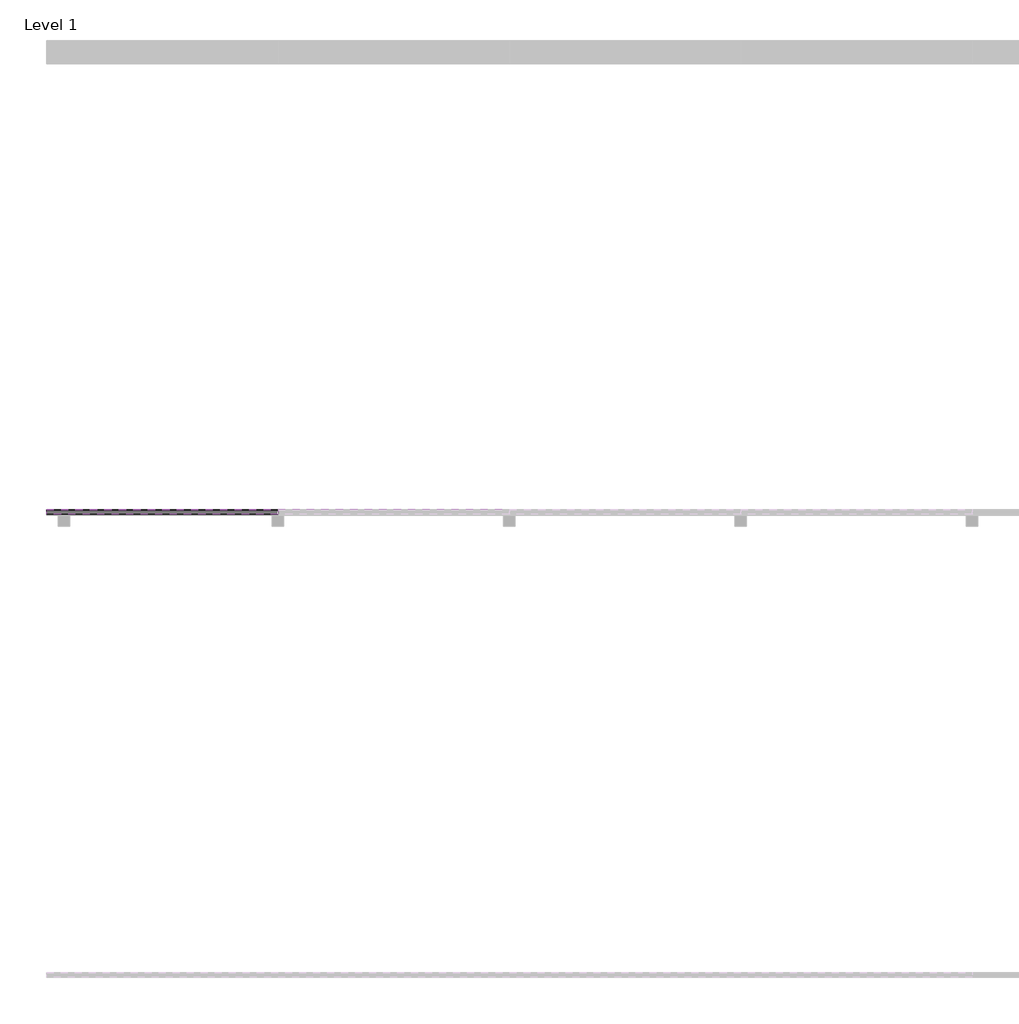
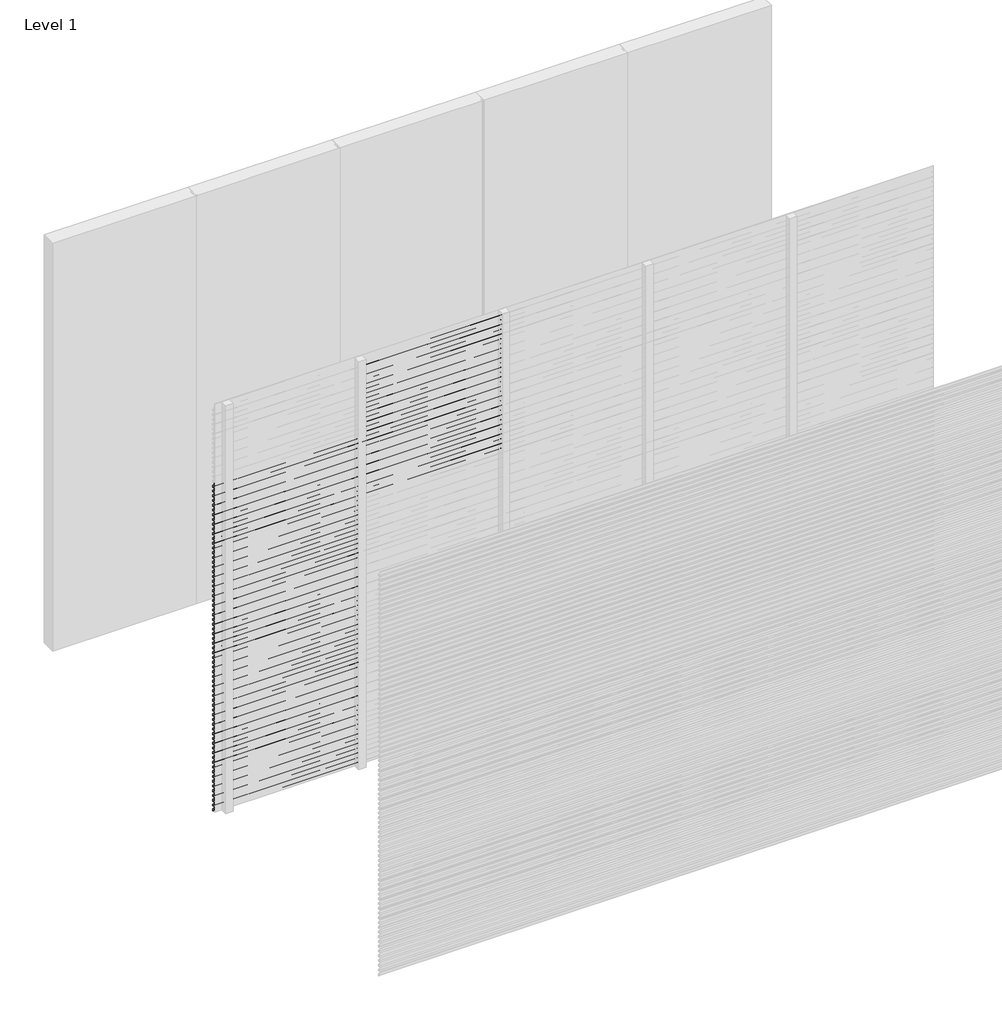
# One storey, part 9 of 25: 98 proxies.
"""IFC4 building model written with IfcOpenShell, lengths in millimetres."""

from ifc_helpers import new_model, si_unit, frame, origin, place, context, project, spatial, polyline, outline, extrude, element, save

model = new_model("IFC4")

# Units and contexts
model_context = context("Model", 3, world=origin())
ifc_project = project(units=[si_unit("LENGTHUNIT", "METRE", prefix="MILLI")], contexts=[model_context])

# Site, building, storey
site = spatial("IfcSite", under=ifc_project)
building = spatial("IfcBuilding", under=site)
storey = spatial("IfcBuildingStorey", under=building, Name="Level 1", Elevation=0.0)

# Proxies
placement = place(None, origin())
element("IfcBuildingElementProxy", 1, Name="Wall Sweeps", at=placement, inside=storey, context=model_context, shape_type="SweptSolid", body=[
    extrude(outline(polyline([(-11995.0, 2415.0), (-11995.0, 2403.942893), (-11976.0, 2388.0), (-11976.0, 2375.0), (-11997.0, 2392.6210923), (-11997.0, 2415.0), (-11995.0, 2415.0)])), frame((0.0, 0.0, 0.0), z_axis=(1.0, 0.0, 0.0), x_axis=(0.0, 1.0, 0.0)), (0.0, 0.0, 1.0), 1000.0),
])
element("IfcBuildingElementProxy", 2, Name="Wall Sweeps", at=placement, inside=storey, context=model_context, shape_type="SweptSolid", body=[
    extrude(outline(polyline([(-11995.0, 2380.0), (-11995.0, 2368.942893), (-11976.0, 2353.0), (-11976.0, 2340.0), (-11997.0, 2357.6210923), (-11997.0, 2380.0), (-11995.0, 2380.0)])), frame((0.0, 0.0, 0.0), z_axis=(1.0, 0.0, 0.0), x_axis=(0.0, 1.0, 0.0)), (0.0, 0.0, 1.0), 1000.0),
])
element("IfcBuildingElementProxy", 3, Name="Wall Sweeps", at=placement, inside=storey, context=model_context, shape_type="SweptSolid", body=[
    extrude(outline(polyline([(-11995.0, 2345.0), (-11995.0, 2333.942893), (-11976.0, 2318.0), (-11976.0, 2305.0), (-11997.0, 2322.6210923), (-11997.0, 2345.0), (-11995.0, 2345.0)])), frame((0.0, 0.0, 0.0), z_axis=(1.0, 0.0, 0.0), x_axis=(0.0, 1.0, 0.0)), (0.0, 0.0, 1.0), 1000.0),
])
element("IfcBuildingElementProxy", 4, Name="Wall Sweeps", at=placement, inside=storey, context=model_context, shape_type="SweptSolid", body=[
    extrude(outline(polyline([(-11995.0, 2310.0), (-11995.0, 2298.942893), (-11976.0, 2283.0), (-11976.0, 2270.0), (-11997.0, 2287.6210923), (-11997.0, 2310.0), (-11995.0, 2310.0)])), frame((0.0, 0.0, 0.0), z_axis=(1.0, 0.0, 0.0), x_axis=(0.0, 1.0, 0.0)), (0.0, 0.0, 1.0), 1000.0),
])
element("IfcBuildingElementProxy", 5, Name="Wall Sweeps", at=placement, inside=storey, context=model_context, shape_type="SweptSolid", body=[
    extrude(outline(polyline([(-11995.0, 2275.0), (-11995.0, 2263.942893), (-11976.0, 2248.0), (-11976.0, 2235.0), (-11997.0, 2252.6210923), (-11997.0, 2275.0), (-11995.0, 2275.0)])), frame((0.0, 0.0, 0.0), z_axis=(1.0, 0.0, 0.0), x_axis=(0.0, 1.0, 0.0)), (0.0, 0.0, 1.0), 1000.0),
])
element("IfcBuildingElementProxy", 6, Name="Wall Sweeps", at=placement, inside=storey, context=model_context, shape_type="SweptSolid", body=[
    extrude(outline(polyline([(-11995.0, 2240.0), (-11995.0, 2228.942893), (-11976.0, 2213.0), (-11976.0, 2200.0), (-11997.0, 2217.6210923), (-11997.0, 2240.0), (-11995.0, 2240.0)])), frame((0.0, 0.0, 0.0), z_axis=(1.0, 0.0, 0.0), x_axis=(0.0, 1.0, 0.0)), (0.0, 0.0, 1.0), 1000.0),
])
element("IfcBuildingElementProxy", 7, Name="Wall Sweeps", at=placement, inside=storey, context=model_context, shape_type="SweptSolid", body=[
    extrude(outline(polyline([(-11995.0, 2205.0), (-11995.0, 2193.942893), (-11976.0, 2178.0), (-11976.0, 2165.0), (-11997.0, 2182.6210923), (-11997.0, 2205.0), (-11995.0, 2205.0)])), frame((0.0, 0.0, 0.0), z_axis=(1.0, 0.0, 0.0), x_axis=(0.0, 1.0, 0.0)), (0.0, 0.0, 1.0), 1000.0),
])
element("IfcBuildingElementProxy", 8, Name="Wall Sweeps", at=placement, inside=storey, context=model_context, shape_type="SweptSolid", body=[
    extrude(outline(polyline([(-11995.0, 2170.0), (-11995.0, 2158.942893), (-11976.0, 2143.0), (-11976.0, 2130.0), (-11997.0, 2147.6210923), (-11997.0, 2170.0), (-11995.0, 2170.0)])), frame((0.0, 0.0, 0.0), z_axis=(1.0, 0.0, 0.0), x_axis=(0.0, 1.0, 0.0)), (0.0, 0.0, 1.0), 1000.0),
])
element("IfcBuildingElementProxy", 9, Name="Wall Sweeps", at=placement, inside=storey, context=model_context, shape_type="SweptSolid", body=[
    extrude(outline(polyline([(-11995.0, 2135.0), (-11995.0, 2123.942893), (-11976.0, 2108.0), (-11976.0, 2095.0), (-11997.0, 2112.6210923), (-11997.0, 2135.0), (-11995.0, 2135.0)])), frame((0.0, 0.0, 0.0), z_axis=(1.0, 0.0, 0.0), x_axis=(0.0, 1.0, 0.0)), (0.0, 0.0, 1.0), 1000.0),
])
element("IfcBuildingElementProxy", 10, Name="Wall Sweeps", at=placement, inside=storey, context=model_context, shape_type="SweptSolid", body=[
    extrude(outline(polyline([(-11995.0, 2100.0), (-11995.0, 2088.942893), (-11976.0, 2073.0), (-11976.0, 2060.0), (-11997.0, 2077.6210923), (-11997.0, 2100.0), (-11995.0, 2100.0)])), frame((0.0, 0.0, 0.0), z_axis=(1.0, 0.0, 0.0), x_axis=(0.0, 1.0, 0.0)), (0.0, 0.0, 1.0), 1000.0),
])
element("IfcBuildingElementProxy", 11, Name="Wall Sweeps", at=placement, inside=storey, context=model_context, shape_type="SweptSolid", body=[
    extrude(outline(polyline([(-11995.0, 2065.0), (-11995.0, 2053.942893), (-11976.0, 2038.0), (-11976.0, 2025.0), (-11997.0, 2042.6210923), (-11997.0, 2065.0), (-11995.0, 2065.0)])), frame((0.0, 0.0, 0.0), z_axis=(1.0, 0.0, 0.0), x_axis=(0.0, 1.0, 0.0)), (0.0, 0.0, 1.0), 1000.0),
])
element("IfcBuildingElementProxy", 12, Name="Wall Sweeps", at=placement, inside=storey, context=model_context, shape_type="SweptSolid", body=[
    extrude(outline(polyline([(-11995.0, 2030.0), (-11995.0, 2018.942893), (-11976.0, 2003.0), (-11976.0, 1990.0), (-11997.0, 2007.6210923), (-11997.0, 2030.0), (-11995.0, 2030.0)])), frame((0.0, 0.0, 0.0), z_axis=(1.0, 0.0, 0.0), x_axis=(0.0, 1.0, 0.0)), (0.0, 0.0, 1.0), 1000.0),
])
element("IfcBuildingElementProxy", 13, Name="Wall Sweeps", at=placement, inside=storey, context=model_context, shape_type="SweptSolid", body=[
    extrude(outline(polyline([(-11995.0, 1995.0), (-11995.0, 1983.942893), (-11976.0, 1968.0), (-11976.0, 1955.0), (-11997.0, 1972.6210923), (-11997.0, 1995.0), (-11995.0, 1995.0)])), frame((0.0, 0.0, 0.0), z_axis=(1.0, 0.0, 0.0), x_axis=(0.0, 1.0, 0.0)), (0.0, 0.0, 1.0), 1000.0),
])
element("IfcBuildingElementProxy", 14, Name="Wall Sweeps", at=placement, inside=storey, context=model_context, shape_type="SweptSolid", body=[
    extrude(outline(polyline([(-11995.0, 1960.0), (-11995.0, 1948.942893), (-11976.0, 1933.0), (-11976.0, 1920.0), (-11997.0, 1937.6210923), (-11997.0, 1960.0), (-11995.0, 1960.0)])), frame((0.0, 0.0, 0.0), z_axis=(1.0, 0.0, 0.0), x_axis=(0.0, 1.0, 0.0)), (0.0, 0.0, 1.0), 1000.0),
])
element("IfcBuildingElementProxy", 15, Name="Wall Sweeps", at=placement, inside=storey, context=model_context, shape_type="SweptSolid", body=[
    extrude(outline(polyline([(-11995.0, 1925.0), (-11995.0, 1913.942893), (-11976.0, 1898.0), (-11976.0, 1885.0), (-11997.0, 1902.6210923), (-11997.0, 1925.0), (-11995.0, 1925.0)])), frame((0.0, 0.0, 0.0), z_axis=(1.0, 0.0, 0.0), x_axis=(0.0, 1.0, 0.0)), (0.0, 0.0, 1.0), 1000.0),
])
element("IfcBuildingElementProxy", 16, Name="Wall Sweeps", at=placement, inside=storey, context=model_context, shape_type="SweptSolid", body=[
    extrude(outline(polyline([(-11995.0, 1890.0), (-11995.0, 1878.942893), (-11976.0, 1863.0), (-11976.0, 1850.0), (-11997.0, 1867.6210923), (-11997.0, 1890.0), (-11995.0, 1890.0)])), frame((0.0, 0.0, 0.0), z_axis=(1.0, 0.0, 0.0), x_axis=(0.0, 1.0, 0.0)), (0.0, 0.0, 1.0), 1000.0),
])
element("IfcBuildingElementProxy", 17, Name="Wall Sweeps", at=placement, inside=storey, context=model_context, shape_type="SweptSolid", body=[
    extrude(outline(polyline([(-11995.0, 1855.0), (-11995.0, 1843.942893), (-11976.0, 1828.0), (-11976.0, 1815.0), (-11997.0, 1832.6210923), (-11997.0, 1855.0), (-11995.0, 1855.0)])), frame((0.0, 0.0, 0.0), z_axis=(1.0, 0.0, 0.0), x_axis=(0.0, 1.0, 0.0)), (0.0, 0.0, 1.0), 1000.0),
])
element("IfcBuildingElementProxy", 18, Name="Wall Sweeps", at=placement, inside=storey, context=model_context, shape_type="SweptSolid", body=[
    extrude(outline(polyline([(-11995.0, 1820.0), (-11995.0, 1808.942893), (-11976.0, 1793.0), (-11976.0, 1780.0), (-11997.0, 1797.6210923), (-11997.0, 1820.0), (-11995.0, 1820.0)])), frame((0.0, 0.0, 0.0), z_axis=(1.0, 0.0, 0.0), x_axis=(0.0, 1.0, 0.0)), (0.0, 0.0, 1.0), 1000.0),
])
element("IfcBuildingElementProxy", 19, Name="Wall Sweeps", at=placement, inside=storey, context=model_context, shape_type="SweptSolid", body=[
    extrude(outline(polyline([(-11995.0, 1785.0), (-11995.0, 1773.942893), (-11976.0, 1758.0), (-11976.0, 1745.0), (-11997.0, 1762.6210923), (-11997.0, 1785.0), (-11995.0, 1785.0)])), frame((0.0, 0.0, 0.0), z_axis=(1.0, 0.0, 0.0), x_axis=(0.0, 1.0, 0.0)), (0.0, 0.0, 1.0), 1000.0),
])
element("IfcBuildingElementProxy", 20, Name="Wall Sweeps", at=placement, inside=storey, context=model_context, shape_type="SweptSolid", body=[
    extrude(outline(polyline([(-11995.0, 1750.0), (-11995.0, 1738.942893), (-11976.0, 1723.0), (-11976.0, 1710.0), (-11997.0, 1727.6210923), (-11997.0, 1750.0), (-11995.0, 1750.0)])), frame((0.0, 0.0, 0.0), z_axis=(1.0, 0.0, 0.0), x_axis=(0.0, 1.0, 0.0)), (0.0, 0.0, 1.0), 1000.0),
])
element("IfcBuildingElementProxy", 21, Name="Wall Sweeps", at=placement, inside=storey, context=model_context, shape_type="SweptSolid", body=[
    extrude(outline(polyline([(-11995.0, 1715.0), (-11995.0, 1703.942893), (-11976.0, 1688.0), (-11976.0, 1675.0), (-11997.0, 1692.6210923), (-11997.0, 1715.0), (-11995.0, 1715.0)])), frame((0.0, 0.0, 0.0), z_axis=(1.0, 0.0, 0.0), x_axis=(0.0, 1.0, 0.0)), (0.0, 0.0, 1.0), 1000.0),
])
element("IfcBuildingElementProxy", 22, Name="Wall Sweeps", at=placement, inside=storey, context=model_context, shape_type="SweptSolid", body=[
    extrude(outline(polyline([(-11995.0, 1680.0), (-11995.0, 1668.942893), (-11976.0, 1653.0), (-11976.0, 1640.0), (-11997.0, 1657.6210923), (-11997.0, 1680.0), (-11995.0, 1680.0)])), frame((0.0, 0.0, 0.0), z_axis=(1.0, 0.0, 0.0), x_axis=(0.0, 1.0, 0.0)), (0.0, 0.0, 1.0), 1000.0),
])
element("IfcBuildingElementProxy", 23, Name="Wall Sweeps", at=placement, inside=storey, context=model_context, shape_type="SweptSolid", body=[
    extrude(outline(polyline([(-11995.0, 1645.0), (-11995.0, 1633.942893), (-11976.0, 1618.0), (-11976.0, 1605.0), (-11997.0, 1622.6210923), (-11997.0, 1645.0), (-11995.0, 1645.0)])), frame((0.0, 0.0, 0.0), z_axis=(1.0, 0.0, 0.0), x_axis=(0.0, 1.0, 0.0)), (0.0, 0.0, 1.0), 1000.0),
])
element("IfcBuildingElementProxy", 24, Name="Wall Sweeps", at=placement, inside=storey, context=model_context, shape_type="SweptSolid", body=[
    extrude(outline(polyline([(-11995.0, 1610.0), (-11995.0, 1598.942893), (-11976.0, 1583.0), (-11976.0, 1570.0), (-11997.0, 1587.6210923), (-11997.0, 1610.0), (-11995.0, 1610.0)])), frame((0.0, 0.0, 0.0), z_axis=(1.0, 0.0, 0.0), x_axis=(0.0, 1.0, 0.0)), (0.0, 0.0, 1.0), 1000.0),
])
element("IfcBuildingElementProxy", 25, Name="Wall Sweeps", at=placement, inside=storey, context=model_context, shape_type="SweptSolid", body=[
    extrude(outline(polyline([(-11995.0, 1575.0), (-11995.0, 1563.942893), (-11976.0, 1548.0), (-11976.0, 1535.0), (-11997.0, 1552.6210923), (-11997.0, 1575.0), (-11995.0, 1575.0)])), frame((0.0, 0.0, 0.0), z_axis=(1.0, 0.0, 0.0), x_axis=(0.0, 1.0, 0.0)), (0.0, 0.0, 1.0), 1000.0),
])
element("IfcBuildingElementProxy", 26, Name="Wall Sweeps", at=placement, inside=storey, context=model_context, shape_type="SweptSolid", body=[
    extrude(outline(polyline([(-11995.0, 1540.0), (-11995.0, 1528.942893), (-11976.0, 1513.0), (-11976.0, 1500.0), (-11997.0, 1517.6210923), (-11997.0, 1540.0), (-11995.0, 1540.0)])), frame((0.0, 0.0, 0.0), z_axis=(1.0, 0.0, 0.0), x_axis=(0.0, 1.0, 0.0)), (0.0, 0.0, 1.0), 1000.0),
])
element("IfcBuildingElementProxy", 27, Name="Wall Sweeps", at=placement, inside=storey, context=model_context, shape_type="SweptSolid", body=[
    extrude(outline(polyline([(-11995.0, 1505.0), (-11995.0, 1493.942893), (-11976.0, 1478.0), (-11976.0, 1465.0), (-11997.0, 1482.6210923), (-11997.0, 1505.0), (-11995.0, 1505.0)])), frame((0.0, 0.0, 0.0), z_axis=(1.0, 0.0, 0.0), x_axis=(0.0, 1.0, 0.0)), (0.0, 0.0, 1.0), 1000.0),
])
element("IfcBuildingElementProxy", 28, Name="Wall Sweeps", at=placement, inside=storey, context=model_context, shape_type="SweptSolid", body=[
    extrude(outline(polyline([(-11995.0, 1470.0), (-11995.0, 1458.942893), (-11976.0, 1443.0), (-11976.0, 1430.0), (-11997.0, 1447.6210923), (-11997.0, 1470.0), (-11995.0, 1470.0)])), frame((0.0, 0.0, 0.0), z_axis=(1.0, 0.0, 0.0), x_axis=(0.0, 1.0, 0.0)), (0.0, 0.0, 1.0), 1000.0),
])
element("IfcBuildingElementProxy", 29, Name="Wall Sweeps", at=placement, inside=storey, context=model_context, shape_type="SweptSolid", body=[
    extrude(outline(polyline([(-11995.0, 1435.0), (-11995.0, 1423.942893), (-11976.0, 1408.0), (-11976.0, 1395.0), (-11997.0, 1412.6210923), (-11997.0, 1435.0), (-11995.0, 1435.0)])), frame((0.0, 0.0, 0.0), z_axis=(1.0, 0.0, 0.0), x_axis=(0.0, 1.0, 0.0)), (0.0, 0.0, 1.0), 1000.0),
])
element("IfcBuildingElementProxy", 30, Name="Wall Sweeps", at=placement, inside=storey, context=model_context, shape_type="SweptSolid", body=[
    extrude(outline(polyline([(-11995.0, 1400.0), (-11995.0, 1388.942893), (-11976.0, 1373.0), (-11976.0, 1360.0), (-11997.0, 1377.6210923), (-11997.0, 1400.0), (-11995.0, 1400.0)])), frame((0.0, 0.0, 0.0), z_axis=(1.0, 0.0, 0.0), x_axis=(0.0, 1.0, 0.0)), (0.0, 0.0, 1.0), 1000.0),
])
element("IfcBuildingElementProxy", 31, Name="Wall Sweeps", at=placement, inside=storey, context=model_context, shape_type="SweptSolid", body=[
    extrude(outline(polyline([(-11995.0, 1365.0), (-11995.0, 1353.942893), (-11976.0, 1338.0), (-11976.0, 1325.0), (-11997.0, 1342.6210923), (-11997.0, 1365.0), (-11995.0, 1365.0)])), frame((0.0, 0.0, 0.0), z_axis=(1.0, 0.0, 0.0), x_axis=(0.0, 1.0, 0.0)), (0.0, 0.0, 1.0), 1000.0),
])
element("IfcBuildingElementProxy", 32, Name="Wall Sweeps", at=placement, inside=storey, context=model_context, shape_type="SweptSolid", body=[
    extrude(outline(polyline([(-11995.0, 1330.0), (-11995.0, 1318.942893), (-11976.0, 1303.0), (-11976.0, 1290.0), (-11997.0, 1307.6210923), (-11997.0, 1330.0), (-11995.0, 1330.0)])), frame((0.0, 0.0, 0.0), z_axis=(1.0, 0.0, 0.0), x_axis=(0.0, 1.0, 0.0)), (0.0, 0.0, 1.0), 1000.0),
])
element("IfcBuildingElementProxy", 33, Name="Wall Sweeps", at=placement, inside=storey, context=model_context, shape_type="SweptSolid", body=[
    extrude(outline(polyline([(-11995.0, 1295.0), (-11995.0, 1283.942893), (-11976.0, 1268.0), (-11976.0, 1255.0), (-11997.0, 1272.6210923), (-11997.0, 1295.0), (-11995.0, 1295.0)])), frame((0.0, 0.0, 0.0), z_axis=(1.0, 0.0, 0.0), x_axis=(0.0, 1.0, 0.0)), (0.0, 0.0, 1.0), 1000.0),
])
element("IfcBuildingElementProxy", 34, Name="Wall Sweeps", at=placement, inside=storey, context=model_context, shape_type="SweptSolid", body=[
    extrude(outline(polyline([(-11995.0, 1260.0), (-11995.0, 1248.942893), (-11976.0, 1233.0), (-11976.0, 1220.0), (-11997.0, 1237.6210923), (-11997.0, 1260.0), (-11995.0, 1260.0)])), frame((0.0, 0.0, 0.0), z_axis=(1.0, 0.0, 0.0), x_axis=(0.0, 1.0, 0.0)), (0.0, 0.0, 1.0), 1000.0),
])
element("IfcBuildingElementProxy", 35, Name="Wall Sweeps", at=placement, inside=storey, context=model_context, shape_type="SweptSolid", body=[
    extrude(outline(polyline([(-11995.0, 1225.0), (-11995.0, 1213.942893), (-11976.0, 1198.0), (-11976.0, 1185.0), (-11997.0, 1202.6210923), (-11997.0, 1225.0), (-11995.0, 1225.0)])), frame((0.0, 0.0, 0.0), z_axis=(1.0, 0.0, 0.0), x_axis=(0.0, 1.0, 0.0)), (0.0, 0.0, 1.0), 1000.0),
])
element("IfcBuildingElementProxy", 36, Name="Wall Sweeps", at=placement, inside=storey, context=model_context, shape_type="SweptSolid", body=[
    extrude(outline(polyline([(-11995.0, 1190.0), (-11995.0, 1178.942893), (-11976.0, 1163.0), (-11976.0, 1150.0), (-11997.0, 1167.6210923), (-11997.0, 1190.0), (-11995.0, 1190.0)])), frame((0.0, 0.0, 0.0), z_axis=(1.0, 0.0, 0.0), x_axis=(0.0, 1.0, 0.0)), (0.0, 0.0, 1.0), 1000.0),
])
element("IfcBuildingElementProxy", 37, Name="Wall Sweeps", at=placement, inside=storey, context=model_context, shape_type="SweptSolid", body=[
    extrude(outline(polyline([(-11995.0, 1155.0), (-11995.0, 1143.942893), (-11976.0, 1128.0), (-11976.0, 1115.0), (-11997.0, 1132.6210923), (-11997.0, 1155.0), (-11995.0, 1155.0)])), frame((0.0, 0.0, 0.0), z_axis=(1.0, 0.0, 0.0), x_axis=(0.0, 1.0, 0.0)), (0.0, 0.0, 1.0), 1000.0),
])
element("IfcBuildingElementProxy", 38, Name="Wall Sweeps", at=placement, inside=storey, context=model_context, shape_type="SweptSolid", body=[
    extrude(outline(polyline([(-11995.0, 1120.0), (-11995.0, 1108.942893), (-11976.0, 1093.0), (-11976.0, 1080.0), (-11997.0, 1097.6210923), (-11997.0, 1120.0), (-11995.0, 1120.0)])), frame((0.0, 0.0, 0.0), z_axis=(1.0, 0.0, 0.0), x_axis=(0.0, 1.0, 0.0)), (0.0, 0.0, 1.0), 1000.0),
])
element("IfcBuildingElementProxy", 39, Name="Wall Sweeps", at=placement, inside=storey, context=model_context, shape_type="SweptSolid", body=[
    extrude(outline(polyline([(-11995.0, 1085.0), (-11995.0, 1073.942893), (-11976.0, 1058.0), (-11976.0, 1045.0), (-11997.0, 1062.6210923), (-11997.0, 1085.0), (-11995.0, 1085.0)])), frame((0.0, 0.0, 0.0), z_axis=(1.0, 0.0, 0.0), x_axis=(0.0, 1.0, 0.0)), (0.0, 0.0, 1.0), 1000.0),
])
element("IfcBuildingElementProxy", 40, Name="Wall Sweeps", at=placement, inside=storey, context=model_context, shape_type="SweptSolid", body=[
    extrude(outline(polyline([(-11995.0, 1050.0), (-11995.0, 1038.942893), (-11976.0, 1023.0), (-11976.0, 1010.0), (-11997.0, 1027.6210923), (-11997.0, 1050.0), (-11995.0, 1050.0)])), frame((0.0, 0.0, 0.0), z_axis=(1.0, 0.0, 0.0), x_axis=(0.0, 1.0, 0.0)), (0.0, 0.0, 1.0), 1000.0),
])
element("IfcBuildingElementProxy", 41, Name="Wall Sweeps", at=placement, inside=storey, context=model_context, shape_type="SweptSolid", body=[
    extrude(outline(polyline([(-11995.0, 1015.0), (-11995.0, 1003.942893), (-11976.0, 988.0), (-11976.0, 975.0), (-11997.0, 992.6210923), (-11997.0, 1015.0), (-11995.0, 1015.0)])), frame((0.0, 0.0, 0.0), z_axis=(1.0, 0.0, 0.0), x_axis=(0.0, 1.0, 0.0)), (0.0, 0.0, 1.0), 1000.0),
])
element("IfcBuildingElementProxy", 42, Name="Wall Sweeps", at=placement, inside=storey, context=model_context, shape_type="SweptSolid", body=[
    extrude(outline(polyline([(-11995.0, 980.0), (-11995.0, 968.942893), (-11976.0, 953.0), (-11976.0, 940.0), (-11997.0, 957.6210923), (-11997.0, 980.0), (-11995.0, 980.0)])), frame((0.0, 0.0, 0.0), z_axis=(1.0, 0.0, 0.0), x_axis=(0.0, 1.0, 0.0)), (0.0, 0.0, 1.0), 1000.0),
])
element("IfcBuildingElementProxy", 43, Name="Wall Sweeps", at=placement, inside=storey, context=model_context, shape_type="SweptSolid", body=[
    extrude(outline(polyline([(-11995.0, 945.0), (-11995.0, 933.942893), (-11976.0, 918.0), (-11976.0, 905.0), (-11997.0, 922.6210923), (-11997.0, 945.0), (-11995.0, 945.0)])), frame((0.0, 0.0, 0.0), z_axis=(1.0, 0.0, 0.0), x_axis=(0.0, 1.0, 0.0)), (0.0, 0.0, 1.0), 1000.0),
])
element("IfcBuildingElementProxy", 44, Name="Wall Sweeps", at=placement, inside=storey, context=model_context, shape_type="SweptSolid", body=[
    extrude(outline(polyline([(-11995.0, 910.0), (-11995.0, 898.942893), (-11976.0, 883.0), (-11976.0, 870.0), (-11997.0, 887.6210923), (-11997.0, 910.0), (-11995.0, 910.0)])), frame((0.0, 0.0, 0.0), z_axis=(1.0, 0.0, 0.0), x_axis=(0.0, 1.0, 0.0)), (0.0, 0.0, 1.0), 1000.0),
])
element("IfcBuildingElementProxy", 45, Name="Wall Sweeps", at=placement, inside=storey, context=model_context, shape_type="SweptSolid", body=[
    extrude(outline(polyline([(-11995.0, 875.0), (-11995.0, 863.942893), (-11976.0, 848.0), (-11976.0, 835.0), (-11997.0, 852.6210923), (-11997.0, 875.0), (-11995.0, 875.0)])), frame((0.0, 0.0, 0.0), z_axis=(1.0, 0.0, 0.0), x_axis=(0.0, 1.0, 0.0)), (0.0, 0.0, 1.0), 1000.0),
])
element("IfcBuildingElementProxy", 46, Name="Wall Sweeps", at=placement, inside=storey, context=model_context, shape_type="SweptSolid", body=[
    extrude(outline(polyline([(-11995.0, 840.0), (-11995.0, 828.942893), (-11976.0, 813.0), (-11976.0, 800.0), (-11997.0, 817.6210923), (-11997.0, 840.0), (-11995.0, 840.0)])), frame((0.0, 0.0, 0.0), z_axis=(1.0, 0.0, 0.0), x_axis=(0.0, 1.0, 0.0)), (0.0, 0.0, 1.0), 1000.0),
])
element("IfcBuildingElementProxy", 47, Name="Wall Sweeps", at=placement, inside=storey, context=model_context, shape_type="SweptSolid", body=[
    extrude(outline(polyline([(-11995.0, 805.0), (-11995.0, 793.942893), (-11976.0, 778.0), (-11976.0, 765.0), (-11997.0, 782.6210923), (-11997.0, 805.0), (-11995.0, 805.0)])), frame((0.0, 0.0, 0.0), z_axis=(1.0, 0.0, 0.0), x_axis=(0.0, 1.0, 0.0)), (0.0, 0.0, 1.0), 1000.0),
])
element("IfcBuildingElementProxy", 48, Name="Wall Sweeps", at=placement, inside=storey, context=model_context, shape_type="SweptSolid", body=[
    extrude(outline(polyline([(-11995.0, 770.0), (-11995.0, 758.942893), (-11976.0, 743.0), (-11976.0, 730.0), (-11997.0, 747.6210923), (-11997.0, 770.0), (-11995.0, 770.0)])), frame((0.0, 0.0, 0.0), z_axis=(1.0, 0.0, 0.0), x_axis=(0.0, 1.0, 0.0)), (0.0, 0.0, 1.0), 1000.0),
])
element("IfcBuildingElementProxy", 49, Name="Wall Sweeps", at=placement, inside=storey, context=model_context, shape_type="SweptSolid", body=[
    extrude(outline(polyline([(-11995.0, 735.0), (-11995.0, 723.942893), (-11976.0, 708.0), (-11976.0, 695.0), (-11997.0, 712.6210923), (-11997.0, 735.0), (-11995.0, 735.0)])), frame((0.0, 0.0, 0.0), z_axis=(1.0, 0.0, 0.0), x_axis=(0.0, 1.0, 0.0)), (0.0, 0.0, 1.0), 1000.0),
])
element("IfcBuildingElementProxy", 50, Name="Wall Sweeps", at=placement, inside=storey, context=model_context, shape_type="SweptSolid", body=[
    extrude(outline(polyline([(-11995.0, 700.0), (-11995.0, 688.942893), (-11976.0, 673.0), (-11976.0, 660.0), (-11997.0, 677.6210923), (-11997.0, 700.0), (-11995.0, 700.0)])), frame((0.0, 0.0, 0.0), z_axis=(1.0, 0.0, 0.0), x_axis=(0.0, 1.0, 0.0)), (0.0, 0.0, 1.0), 1000.0),
])
element("IfcBuildingElementProxy", 51, Name="Wall Sweeps", at=placement, inside=storey, context=model_context, shape_type="SweptSolid", body=[
    extrude(outline(polyline([(-11995.0, 665.0), (-11995.0, 653.942893), (-11976.0, 638.0), (-11976.0, 625.0), (-11997.0, 642.6210923), (-11997.0, 665.0), (-11995.0, 665.0)])), frame((0.0, 0.0, 0.0), z_axis=(1.0, 0.0, 0.0), x_axis=(0.0, 1.0, 0.0)), (0.0, 0.0, 1.0), 1000.0),
])
element("IfcBuildingElementProxy", 52, Name="Wall Sweeps", at=placement, inside=storey, context=model_context, shape_type="SweptSolid", body=[
    extrude(outline(polyline([(-11995.0, 630.0), (-11995.0, 618.942893), (-11976.0, 603.0), (-11976.0, 590.0), (-11997.0, 607.6210923), (-11997.0, 630.0), (-11995.0, 630.0)])), frame((0.0, 0.0, 0.0), z_axis=(1.0, 0.0, 0.0), x_axis=(0.0, 1.0, 0.0)), (0.0, 0.0, 1.0), 1000.0),
])
element("IfcBuildingElementProxy", 53, Name="Wall Sweeps", at=placement, inside=storey, context=model_context, shape_type="SweptSolid", body=[
    extrude(outline(polyline([(-11995.0, 595.0), (-11995.0, 583.942893), (-11976.0, 568.0), (-11976.0, 555.0), (-11997.0, 572.6210923), (-11997.0, 595.0), (-11995.0, 595.0)])), frame((0.0, 0.0, 0.0), z_axis=(1.0, 0.0, 0.0), x_axis=(0.0, 1.0, 0.0)), (0.0, 0.0, 1.0), 1000.0),
])
element("IfcBuildingElementProxy", 54, Name="Wall Sweeps", at=placement, inside=storey, context=model_context, shape_type="SweptSolid", body=[
    extrude(outline(polyline([(-11995.0, 560.0), (-11995.0, 548.942893), (-11976.0, 533.0), (-11976.0, 520.0), (-11997.0, 537.6210923), (-11997.0, 560.0), (-11995.0, 560.0)])), frame((0.0, 0.0, 0.0), z_axis=(1.0, 0.0, 0.0), x_axis=(0.0, 1.0, 0.0)), (0.0, 0.0, 1.0), 1000.0),
])
element("IfcBuildingElementProxy", 55, Name="Wall Sweeps", at=placement, inside=storey, context=model_context, shape_type="SweptSolid", body=[
    extrude(outline(polyline([(-11995.0, 525.0), (-11995.0, 513.942893), (-11976.0, 498.0), (-11976.0, 485.0), (-11997.0, 502.6210923), (-11997.0, 525.0), (-11995.0, 525.0)])), frame((0.0, 0.0, 0.0), z_axis=(1.0, 0.0, 0.0), x_axis=(0.0, 1.0, 0.0)), (0.0, 0.0, 1.0), 1000.0),
])
element("IfcBuildingElementProxy", 56, Name="Wall Sweeps", at=placement, inside=storey, context=model_context, shape_type="SweptSolid", body=[
    extrude(outline(polyline([(-11995.0, 490.0), (-11995.0, 478.942893), (-11976.0, 463.0), (-11976.0, 450.0), (-11997.0, 467.6210923), (-11997.0, 490.0), (-11995.0, 490.0)])), frame((0.0, 0.0, 0.0), z_axis=(1.0, 0.0, 0.0), x_axis=(0.0, 1.0, 0.0)), (0.0, 0.0, 1.0), 1000.0),
])
element("IfcBuildingElementProxy", 57, Name="Wall Sweeps", at=placement, inside=storey, context=model_context, shape_type="SweptSolid", body=[
    extrude(outline(polyline([(-11995.0, 455.0), (-11995.0, 443.942893), (-11976.0, 428.0), (-11976.0, 415.0), (-11997.0, 432.6210923), (-11997.0, 455.0), (-11995.0, 455.0)])), frame((0.0, 0.0, 0.0), z_axis=(1.0, 0.0, 0.0), x_axis=(0.0, 1.0, 0.0)), (0.0, 0.0, 1.0), 1000.0),
])
element("IfcBuildingElementProxy", 58, Name="Wall Sweeps", at=placement, inside=storey, context=model_context, shape_type="SweptSolid", body=[
    extrude(outline(polyline([(-11995.0, 420.0), (-11995.0, 408.942893), (-11976.0, 393.0), (-11976.0, 380.0), (-11997.0, 397.6210923), (-11997.0, 420.0), (-11995.0, 420.0)])), frame((0.0, 0.0, 0.0), z_axis=(1.0, 0.0, 0.0), x_axis=(0.0, 1.0, 0.0)), (0.0, 0.0, 1.0), 1000.0),
])
element("IfcBuildingElementProxy", 59, Name="Wall Sweeps", at=placement, inside=storey, context=model_context, shape_type="SweptSolid", body=[
    extrude(outline(polyline([(-11995.0, 385.0), (-11995.0, 373.942893), (-11976.0, 358.0), (-11976.0, 345.0), (-11997.0, 362.6210923), (-11997.0, 385.0), (-11995.0, 385.0)])), frame((0.0, 0.0, 0.0), z_axis=(1.0, 0.0, 0.0), x_axis=(0.0, 1.0, 0.0)), (0.0, 0.0, 1.0), 1000.0),
])
element("IfcBuildingElementProxy", 60, Name="Wall Sweeps", at=placement, inside=storey, context=model_context, shape_type="SweptSolid", body=[
    extrude(outline(polyline([(-11995.0, 350.0), (-11995.0, 338.942893), (-11976.0, 323.0), (-11976.0, 310.0), (-11997.0, 327.6210923), (-11997.0, 350.0), (-11995.0, 350.0)])), frame((0.0, 0.0, 0.0), z_axis=(1.0, 0.0, 0.0), x_axis=(0.0, 1.0, 0.0)), (0.0, 0.0, 1.0), 1000.0),
])
element("IfcBuildingElementProxy", 61, Name="Wall Sweeps", at=placement, inside=storey, context=model_context, shape_type="SweptSolid", body=[
    extrude(outline(polyline([(-11995.0, 315.0), (-11995.0, 303.942893), (-11976.0, 288.0), (-11976.0, 275.0), (-11997.0, 292.6210923), (-11997.0, 315.0), (-11995.0, 315.0)])), frame((0.0, 0.0, 0.0), z_axis=(1.0, 0.0, 0.0), x_axis=(0.0, 1.0, 0.0)), (0.0, 0.0, 1.0), 1000.0),
])
element("IfcBuildingElementProxy", 62, Name="Wall Sweeps", at=placement, inside=storey, context=model_context, shape_type="SweptSolid", body=[
    extrude(outline(polyline([(-11995.0, 280.0), (-11995.0, 268.942893), (-11976.0, 253.0), (-11976.0, 240.0), (-11997.0, 257.6210923), (-11997.0, 280.0), (-11995.0, 280.0)])), frame((0.0, 0.0, 0.0), z_axis=(1.0, 0.0, 0.0), x_axis=(0.0, 1.0, 0.0)), (0.0, 0.0, 1.0), 1000.0),
])
element("IfcBuildingElementProxy", 63, Name="Wall Sweeps", at=placement, inside=storey, context=model_context, shape_type="SweptSolid", body=[
    extrude(outline(polyline([(-11995.0, 245.0), (-11995.0, 233.942893), (-11976.0, 218.0), (-11976.0, 205.0), (-11997.0, 222.6210923), (-11997.0, 245.0), (-11995.0, 245.0)])), frame((0.0, 0.0, 0.0), z_axis=(1.0, 0.0, 0.0), x_axis=(0.0, 1.0, 0.0)), (0.0, 0.0, 1.0), 1000.0),
])
element("IfcBuildingElementProxy", 64, Name="Wall Sweeps", at=placement, inside=storey, context=model_context, shape_type="SweptSolid", body=[
    extrude(outline(polyline([(-11995.0, 210.0), (-11995.0, 198.942893), (-11976.0, 183.0), (-11976.0, 170.0), (-11997.0, 187.6210923), (-11997.0, 210.0), (-11995.0, 210.0)])), frame((0.0, 0.0, 0.0), z_axis=(1.0, 0.0, 0.0), x_axis=(0.0, 1.0, 0.0)), (0.0, 0.0, 1.0), 1000.0),
])
element("IfcBuildingElementProxy", 65, Name="Wall Sweeps", at=placement, inside=storey, context=model_context, shape_type="SweptSolid", body=[
    extrude(outline(polyline([(-11995.0, 175.0), (-11995.0, 163.942893), (-11976.0, 148.0), (-11976.0, 135.0), (-11997.0, 152.6210923), (-11997.0, 175.0), (-11995.0, 175.0)])), frame((0.0, 0.0, 0.0), z_axis=(1.0, 0.0, 0.0), x_axis=(0.0, 1.0, 0.0)), (0.0, 0.0, 1.0), 1000.0),
])
element("IfcBuildingElementProxy", 66, Name="Wall Sweeps", at=placement, inside=storey, context=model_context, shape_type="SweptSolid", body=[
    extrude(outline(polyline([(-11995.0, 140.0), (-11995.0, 128.942893), (-11976.0, 113.0), (-11976.0, 100.0), (-11997.0, 117.6210923), (-11997.0, 140.0), (-11995.0, 140.0)])), frame((0.0, 0.0, 0.0), z_axis=(1.0, 0.0, 0.0), x_axis=(0.0, 1.0, 0.0)), (0.0, 0.0, 1.0), 1000.0),
])
element("IfcBuildingElementProxy", 67, Name="Wall Sweeps", at=placement, inside=storey, context=model_context, shape_type="SweptSolid", body=[
    extrude(outline(polyline([(-11995.0, 105.0), (-11995.0, 93.942893), (-11976.0, 78.0), (-11976.0, 65.0), (-11997.0, 82.6210923), (-11997.0, 105.0), (-11995.0, 105.0)])), frame((0.0, 0.0, 0.0), z_axis=(1.0, 0.0, 0.0), x_axis=(0.0, 1.0, 0.0)), (0.0, 0.0, 1.0), 1000.0),
])
element("IfcBuildingElementProxy", 68, Name="Wall Sweeps", at=placement, inside=storey, context=model_context, shape_type="SweptSolid", body=[
    extrude(outline(polyline([(-11995.0, 70.0), (-11995.0, 58.942893), (-11976.0, 43.0), (-11976.0, 30.0), (-11997.0, 47.6210923), (-11997.0, 70.0), (-11995.0, 70.0)])), frame((0.0, 0.0, 0.0), z_axis=(1.0, 0.0, 0.0), x_axis=(0.0, 1.0, 0.0)), (0.0, 0.0, 1.0), 1000.0),
])
element("IfcBuildingElementProxy", 69, Name="Wall Sweeps", at=placement, inside=storey, context=model_context, shape_type="SweptSolid", body=[
    extrude(outline(polyline([(-11995.0, 35.0), (-11995.0, 23.942893), (-11976.0, 8.0), (-11976.0, -5.0), (-11997.0, 12.6210923), (-11997.0, 35.0), (-11995.0, 35.0)])), frame((0.0, 0.0, 0.0), z_axis=(1.0, 0.0, 0.0), x_axis=(0.0, 1.0, 0.0)), (0.0, 0.0, 1.0), 1000.0),
])
element("IfcBuildingElementProxy", 70, Name="Wall Sweeps", at=placement, inside=storey, context=model_context, shape_type="SweptSolid", body=[
    extrude(outline(polyline([(-11995.0, 2975.0), (-11995.0, 2963.942893), (-11976.0, 2948.0), (-11976.0, 2935.0), (-11997.0, 2952.6210923), (-11997.0, 2975.0), (-11995.0, 2975.0)])), frame((1000.0, 0.0, 0.0), z_axis=(1.0, 0.0, 0.0), x_axis=(0.0, 1.0, 0.0)), (0.0, 0.0, 1.0), 1000.0),
])
element("IfcBuildingElementProxy", 71, Name="Wall Sweeps", at=placement, inside=storey, context=model_context, shape_type="SweptSolid", body=[
    extrude(outline(polyline([(-11995.0, 2940.0), (-11995.0, 2928.942893), (-11976.0, 2913.0), (-11976.0, 2900.0), (-11997.0, 2917.6210923), (-11997.0, 2940.0), (-11995.0, 2940.0)])), frame((1000.0, 0.0, 0.0), z_axis=(1.0, 0.0, 0.0), x_axis=(0.0, 1.0, 0.0)), (0.0, 0.0, 1.0), 1000.0),
])
element("IfcBuildingElementProxy", 72, Name="Wall Sweeps", at=placement, inside=storey, context=model_context, shape_type="SweptSolid", body=[
    extrude(outline(polyline([(-11995.0, 2905.0), (-11995.0, 2893.942893), (-11976.0, 2878.0), (-11976.0, 2865.0), (-11997.0, 2882.6210923), (-11997.0, 2905.0), (-11995.0, 2905.0)])), frame((1000.0, 0.0, 0.0), z_axis=(1.0, 0.0, 0.0), x_axis=(0.0, 1.0, 0.0)), (0.0, 0.0, 1.0), 1000.0),
])
element("IfcBuildingElementProxy", 73, Name="Wall Sweeps", at=placement, inside=storey, context=model_context, shape_type="SweptSolid", body=[
    extrude(outline(polyline([(-11995.0, 2870.0), (-11995.0, 2858.942893), (-11976.0, 2843.0), (-11976.0, 2830.0), (-11997.0, 2847.6210923), (-11997.0, 2870.0), (-11995.0, 2870.0)])), frame((1000.0, 0.0, 0.0), z_axis=(1.0, 0.0, 0.0), x_axis=(0.0, 1.0, 0.0)), (0.0, 0.0, 1.0), 1000.0),
])
element("IfcBuildingElementProxy", 74, Name="Wall Sweeps", at=placement, inside=storey, context=model_context, shape_type="SweptSolid", body=[
    extrude(outline(polyline([(-11995.0, 2835.0), (-11995.0, 2823.942893), (-11976.0, 2808.0), (-11976.0, 2795.0), (-11997.0, 2812.6210923), (-11997.0, 2835.0), (-11995.0, 2835.0)])), frame((1000.0, 0.0, 0.0), z_axis=(1.0, 0.0, 0.0), x_axis=(0.0, 1.0, 0.0)), (0.0, 0.0, 1.0), 1000.0),
])
element("IfcBuildingElementProxy", 75, Name="Wall Sweeps", at=placement, inside=storey, context=model_context, shape_type="SweptSolid", body=[
    extrude(outline(polyline([(-11995.0, 2800.0), (-11995.0, 2788.942893), (-11976.0, 2773.0), (-11976.0, 2760.0), (-11997.0, 2777.6210923), (-11997.0, 2800.0), (-11995.0, 2800.0)])), frame((1000.0, 0.0, 0.0), z_axis=(1.0, 0.0, 0.0), x_axis=(0.0, 1.0, 0.0)), (0.0, 0.0, 1.0), 1000.0),
])
element("IfcBuildingElementProxy", 76, Name="Wall Sweeps", at=placement, inside=storey, context=model_context, shape_type="SweptSolid", body=[
    extrude(outline(polyline([(-11995.0, 2765.0), (-11995.0, 2753.942893), (-11976.0, 2738.0), (-11976.0, 2725.0), (-11997.0, 2742.6210923), (-11997.0, 2765.0), (-11995.0, 2765.0)])), frame((1000.0, 0.0, 0.0), z_axis=(1.0, 0.0, 0.0), x_axis=(0.0, 1.0, 0.0)), (0.0, 0.0, 1.0), 1000.0),
])
element("IfcBuildingElementProxy", 77, Name="Wall Sweeps", at=placement, inside=storey, context=model_context, shape_type="SweptSolid", body=[
    extrude(outline(polyline([(-11995.0, 2730.0), (-11995.0, 2718.942893), (-11976.0, 2703.0), (-11976.0, 2690.0), (-11997.0, 2707.6210923), (-11997.0, 2730.0), (-11995.0, 2730.0)])), frame((1000.0, 0.0, 0.0), z_axis=(1.0, 0.0, 0.0), x_axis=(0.0, 1.0, 0.0)), (0.0, 0.0, 1.0), 1000.0),
])
element("IfcBuildingElementProxy", 78, Name="Wall Sweeps", at=placement, inside=storey, context=model_context, shape_type="SweptSolid", body=[
    extrude(outline(polyline([(-11995.0, 2695.0), (-11995.0, 2683.942893), (-11976.0, 2668.0), (-11976.0, 2655.0), (-11997.0, 2672.6210923), (-11997.0, 2695.0), (-11995.0, 2695.0)])), frame((1000.0, 0.0, 0.0), z_axis=(1.0, 0.0, 0.0), x_axis=(0.0, 1.0, 0.0)), (0.0, 0.0, 1.0), 1000.0),
])
element("IfcBuildingElementProxy", 79, Name="Wall Sweeps", at=placement, inside=storey, context=model_context, shape_type="SweptSolid", body=[
    extrude(outline(polyline([(-11995.0, 2660.0), (-11995.0, 2648.942893), (-11976.0, 2633.0), (-11976.0, 2620.0), (-11997.0, 2637.6210923), (-11997.0, 2660.0), (-11995.0, 2660.0)])), frame((1000.0, 0.0, 0.0), z_axis=(1.0, 0.0, 0.0), x_axis=(0.0, 1.0, 0.0)), (0.0, 0.0, 1.0), 1000.0),
])
element("IfcBuildingElementProxy", 80, Name="Wall Sweeps", at=placement, inside=storey, context=model_context, shape_type="SweptSolid", body=[
    extrude(outline(polyline([(-11995.0, 2625.0), (-11995.0, 2613.942893), (-11976.0, 2598.0), (-11976.0, 2585.0), (-11997.0, 2602.6210923), (-11997.0, 2625.0), (-11995.0, 2625.0)])), frame((1000.0, 0.0, 0.0), z_axis=(1.0, 0.0, 0.0), x_axis=(0.0, 1.0, 0.0)), (0.0, 0.0, 1.0), 1000.0),
])
element("IfcBuildingElementProxy", 81, Name="Wall Sweeps", at=placement, inside=storey, context=model_context, shape_type="SweptSolid", body=[
    extrude(outline(polyline([(-11995.0, 2590.0), (-11995.0, 2578.942893), (-11976.0, 2563.0), (-11976.0, 2550.0), (-11997.0, 2567.6210923), (-11997.0, 2590.0), (-11995.0, 2590.0)])), frame((1000.0, 0.0, 0.0), z_axis=(1.0, 0.0, 0.0), x_axis=(0.0, 1.0, 0.0)), (0.0, 0.0, 1.0), 1000.0),
])
element("IfcBuildingElementProxy", 82, Name="Wall Sweeps", at=placement, inside=storey, context=model_context, shape_type="SweptSolid", body=[
    extrude(outline(polyline([(-11995.0, 2555.0), (-11995.0, 2543.942893), (-11976.0, 2528.0), (-11976.0, 2515.0), (-11997.0, 2532.6210923), (-11997.0, 2555.0), (-11995.0, 2555.0)])), frame((1000.0, 0.0, 0.0), z_axis=(1.0, 0.0, 0.0), x_axis=(0.0, 1.0, 0.0)), (0.0, 0.0, 1.0), 1000.0),
])
element("IfcBuildingElementProxy", 83, Name="Wall Sweeps", at=placement, inside=storey, context=model_context, shape_type="SweptSolid", body=[
    extrude(outline(polyline([(-11995.0, 2520.0), (-11995.0, 2508.942893), (-11976.0, 2493.0), (-11976.0, 2480.0), (-11997.0, 2497.6210923), (-11997.0, 2520.0), (-11995.0, 2520.0)])), frame((1000.0, 0.0, 0.0), z_axis=(1.0, 0.0, 0.0), x_axis=(0.0, 1.0, 0.0)), (0.0, 0.0, 1.0), 1000.0),
])
element("IfcBuildingElementProxy", 84, Name="Wall Sweeps", at=placement, inside=storey, context=model_context, shape_type="SweptSolid", body=[
    extrude(outline(polyline([(-11995.0, 2485.0), (-11995.0, 2473.942893), (-11976.0, 2458.0), (-11976.0, 2445.0), (-11997.0, 2462.6210923), (-11997.0, 2485.0), (-11995.0, 2485.0)])), frame((1000.0, 0.0, 0.0), z_axis=(1.0, 0.0, 0.0), x_axis=(0.0, 1.0, 0.0)), (0.0, 0.0, 1.0), 1000.0),
])
element("IfcBuildingElementProxy", 85, Name="Wall Sweeps", at=placement, inside=storey, context=model_context, shape_type="SweptSolid", body=[
    extrude(outline(polyline([(-11995.0, 2450.0), (-11995.0, 2438.942893), (-11976.0, 2423.0), (-11976.0, 2410.0), (-11997.0, 2427.6210923), (-11997.0, 2450.0), (-11995.0, 2450.0)])), frame((1000.0, 0.0, 0.0), z_axis=(1.0, 0.0, 0.0), x_axis=(0.0, 1.0, 0.0)), (0.0, 0.0, 1.0), 1000.0),
])
element("IfcBuildingElementProxy", 86, Name="Wall Sweeps", at=placement, inside=storey, context=model_context, shape_type="SweptSolid", body=[
    extrude(outline(polyline([(-11995.0, 2415.0), (-11995.0, 2403.942893), (-11976.0, 2388.0), (-11976.0, 2375.0), (-11997.0, 2392.6210923), (-11997.0, 2415.0), (-11995.0, 2415.0)])), frame((1000.0, 0.0, 0.0), z_axis=(1.0, 0.0, 0.0), x_axis=(0.0, 1.0, 0.0)), (0.0, 0.0, 1.0), 1000.0),
])
element("IfcBuildingElementProxy", 87, Name="Wall Sweeps", at=placement, inside=storey, context=model_context, shape_type="SweptSolid", body=[
    extrude(outline(polyline([(-11995.0, 2380.0), (-11995.0, 2368.942893), (-11976.0, 2353.0), (-11976.0, 2340.0), (-11997.0, 2357.6210923), (-11997.0, 2380.0), (-11995.0, 2380.0)])), frame((1000.0, 0.0, 0.0), z_axis=(1.0, 0.0, 0.0), x_axis=(0.0, 1.0, 0.0)), (0.0, 0.0, 1.0), 1000.0),
])
element("IfcBuildingElementProxy", 88, Name="Wall Sweeps", at=placement, inside=storey, context=model_context, shape_type="SweptSolid", body=[
    extrude(outline(polyline([(-11995.0, 2345.0), (-11995.0, 2333.942893), (-11976.0, 2318.0), (-11976.0, 2305.0), (-11997.0, 2322.6210923), (-11997.0, 2345.0), (-11995.0, 2345.0)])), frame((1000.0, 0.0, 0.0), z_axis=(1.0, 0.0, 0.0), x_axis=(0.0, 1.0, 0.0)), (0.0, 0.0, 1.0), 1000.0),
])
element("IfcBuildingElementProxy", 89, Name="Wall Sweeps", at=placement, inside=storey, context=model_context, shape_type="SweptSolid", body=[
    extrude(outline(polyline([(-11995.0, 2310.0), (-11995.0, 2298.942893), (-11976.0, 2283.0), (-11976.0, 2270.0), (-11997.0, 2287.6210923), (-11997.0, 2310.0), (-11995.0, 2310.0)])), frame((1000.0, 0.0, 0.0), z_axis=(1.0, 0.0, 0.0), x_axis=(0.0, 1.0, 0.0)), (0.0, 0.0, 1.0), 1000.0),
])
element("IfcBuildingElementProxy", 90, Name="Wall Sweeps", at=placement, inside=storey, context=model_context, shape_type="SweptSolid", body=[
    extrude(outline(polyline([(-11995.0, 2275.0), (-11995.0, 2263.942893), (-11976.0, 2248.0), (-11976.0, 2235.0), (-11997.0, 2252.6210923), (-11997.0, 2275.0), (-11995.0, 2275.0)])), frame((1000.0, 0.0, 0.0), z_axis=(1.0, 0.0, 0.0), x_axis=(0.0, 1.0, 0.0)), (0.0, 0.0, 1.0), 1000.0),
])
element("IfcBuildingElementProxy", 91, Name="Wall Sweeps", at=placement, inside=storey, context=model_context, shape_type="SweptSolid", body=[
    extrude(outline(polyline([(-11995.0, 2240.0), (-11995.0, 2228.942893), (-11976.0, 2213.0), (-11976.0, 2200.0), (-11997.0, 2217.6210923), (-11997.0, 2240.0), (-11995.0, 2240.0)])), frame((1000.0, 0.0, 0.0), z_axis=(1.0, 0.0, 0.0), x_axis=(0.0, 1.0, 0.0)), (0.0, 0.0, 1.0), 1000.0),
])
element("IfcBuildingElementProxy", 92, Name="Wall Sweeps", at=placement, inside=storey, context=model_context, shape_type="SweptSolid", body=[
    extrude(outline(polyline([(-11995.0, 2205.0), (-11995.0, 2193.942893), (-11976.0, 2178.0), (-11976.0, 2165.0), (-11997.0, 2182.6210923), (-11997.0, 2205.0), (-11995.0, 2205.0)])), frame((1000.0, 0.0, 0.0), z_axis=(1.0, 0.0, 0.0), x_axis=(0.0, 1.0, 0.0)), (0.0, 0.0, 1.0), 1000.0),
])
element("IfcBuildingElementProxy", 93, Name="Wall Sweeps", at=placement, inside=storey, context=model_context, shape_type="SweptSolid", body=[
    extrude(outline(polyline([(-11995.0, 2170.0), (-11995.0, 2158.942893), (-11976.0, 2143.0), (-11976.0, 2130.0), (-11997.0, 2147.6210923), (-11997.0, 2170.0), (-11995.0, 2170.0)])), frame((1000.0, 0.0, 0.0), z_axis=(1.0, 0.0, 0.0), x_axis=(0.0, 1.0, 0.0)), (0.0, 0.0, 1.0), 1000.0),
])
element("IfcBuildingElementProxy", 94, Name="Wall Sweeps", at=placement, inside=storey, context=model_context, shape_type="SweptSolid", body=[
    extrude(outline(polyline([(-11995.0, 2135.0), (-11995.0, 2123.942893), (-11976.0, 2108.0), (-11976.0, 2095.0), (-11997.0, 2112.6210923), (-11997.0, 2135.0), (-11995.0, 2135.0)])), frame((1000.0, 0.0, 0.0), z_axis=(1.0, 0.0, 0.0), x_axis=(0.0, 1.0, 0.0)), (0.0, 0.0, 1.0), 1000.0),
])
element("IfcBuildingElementProxy", 95, Name="Wall Sweeps", at=placement, inside=storey, context=model_context, shape_type="SweptSolid", body=[
    extrude(outline(polyline([(-11995.0, 2100.0), (-11995.0, 2088.942893), (-11976.0, 2073.0), (-11976.0, 2060.0), (-11997.0, 2077.6210923), (-11997.0, 2100.0), (-11995.0, 2100.0)])), frame((1000.0, 0.0, 0.0), z_axis=(1.0, 0.0, 0.0), x_axis=(0.0, 1.0, 0.0)), (0.0, 0.0, 1.0), 1000.0),
])
element("IfcBuildingElementProxy", 96, Name="Wall Sweeps", at=placement, inside=storey, context=model_context, shape_type="SweptSolid", body=[
    extrude(outline(polyline([(-11995.0, 2065.0), (-11995.0, 2053.942893), (-11976.0, 2038.0), (-11976.0, 2025.0), (-11997.0, 2042.6210923), (-11997.0, 2065.0), (-11995.0, 2065.0)])), frame((1000.0, 0.0, 0.0), z_axis=(1.0, 0.0, 0.0), x_axis=(0.0, 1.0, 0.0)), (0.0, 0.0, 1.0), 1000.0),
])
element("IfcBuildingElementProxy", 97, Name="Wall Sweeps", at=placement, inside=storey, context=model_context, shape_type="SweptSolid", body=[
    extrude(outline(polyline([(-11995.0, 2030.0), (-11995.0, 2018.942893), (-11976.0, 2003.0), (-11976.0, 1990.0), (-11997.0, 2007.6210923), (-11997.0, 2030.0), (-11995.0, 2030.0)])), frame((1000.0, 0.0, 0.0), z_axis=(1.0, 0.0, 0.0), x_axis=(0.0, 1.0, 0.0)), (0.0, 0.0, 1.0), 1000.0),
])
element("IfcBuildingElementProxy", 98, Name="Wall Sweeps", at=placement, inside=storey, context=model_context, shape_type="SweptSolid", body=[
    extrude(outline(polyline([(-11995.0, 1995.0), (-11995.0, 1983.942893), (-11976.0, 1968.0), (-11976.0, 1955.0), (-11997.0, 1972.6210923), (-11997.0, 1995.0), (-11995.0, 1995.0)])), frame((1000.0, 0.0, 0.0), z_axis=(1.0, 0.0, 0.0), x_axis=(0.0, 1.0, 0.0)), (0.0, 0.0, 1.0), 1000.0),
])

save(model, "model.ifc")
